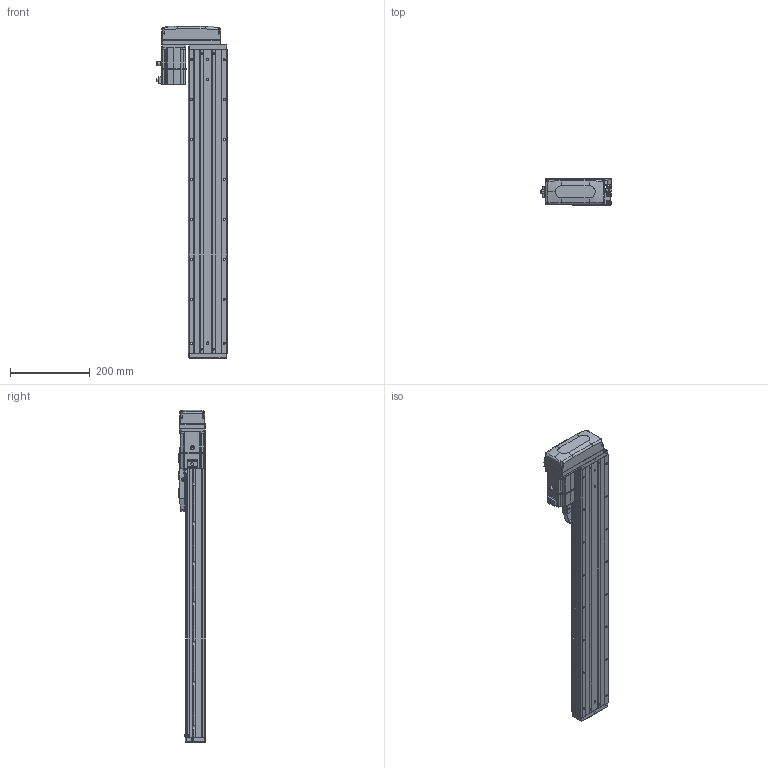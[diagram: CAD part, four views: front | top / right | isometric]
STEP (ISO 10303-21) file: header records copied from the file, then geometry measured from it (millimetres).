
FILE_DESCRIPTION (( 'STEP AP203' ), '1' );
FILE_NAME ('CTHA100-550-BL-M20-C4L.step', '2022-07-06T09:09:13', ( '微软用户' ), ( '微软中国' ), 'SwSTEP 2.0', 'SolidWorks 2020', '' );
FILE_SCHEMA (( 'CONFIG_CONTROL_DESIGN' ));
Length unit declared in the file: millimetre
Products named in the file (19): CTHA60-021; CTHA100-031; KTHA100-001_760; GBT77-2000 M3×3; CTHA86-030; KTHA100-004; GBT 70.1-M3℅6; GBT 70.3-M3℅6; KTHA100-005; GBT70.1 M5℅16; CTHA86-015-1_CTHA86-015-2; GB¨uT 70.2-M3¡Á5_M3¡Á6; CTHA60-016; CTHA86-033; EE_SX911P_R; _X2_4E0983F1_X0_200W_1; CTHA100-550-BL-M20-C4L; CTHA60-017; CTHA100-002
Assembly tree (64 placements, depth 2):
  CTHA100-550-BL-M20-C4L
    KTHA100-001_760
    KTHA100-004
    KTHA100-005
    GB¨uT 70.2-M3¡Á5_M3¡Á6  x10
    EE_SX911P_R  x3
    CTHA60-017  x3
    CTHA60-021  x2
    GBT77-2000 M3×3  x6
    GBT 70.1-M3℅6  x10
    GBT70.1 M5℅16  x14
    CTHA60-016  x2
    _X2_4E0983F1_X0_200W_1
    CTHA100-002
    CTHA100-031
    CTHA86-030  x2
    GBT 70.3-M3℅6  x4
    CTHA86-015-1_CTHA86-015-2
    CTHA86-033
Bounding box: 178.52 x 68 x 831 mm (x, y, z)
Volume: 3582107.1 mm3; surface area: 610099.6 mm2
Topology: 66 solids, 66 shells, 2669 faces, 6415 edges, 3976 vertices
Faces by surface type: plane 1392, cylinder 701, cone 353, torus 124, bspline 75, sphere 24
Entity records: 45992 total; most frequent: CARTESIAN_POINT 9035, DIRECTION 7094, ORIENTED_EDGE 6946, EDGE_CURVE 3473, AXIS2_PLACEMENT_3D 2407, LINE 2280, VECTOR 2280, VERTEX_POINT 2196
